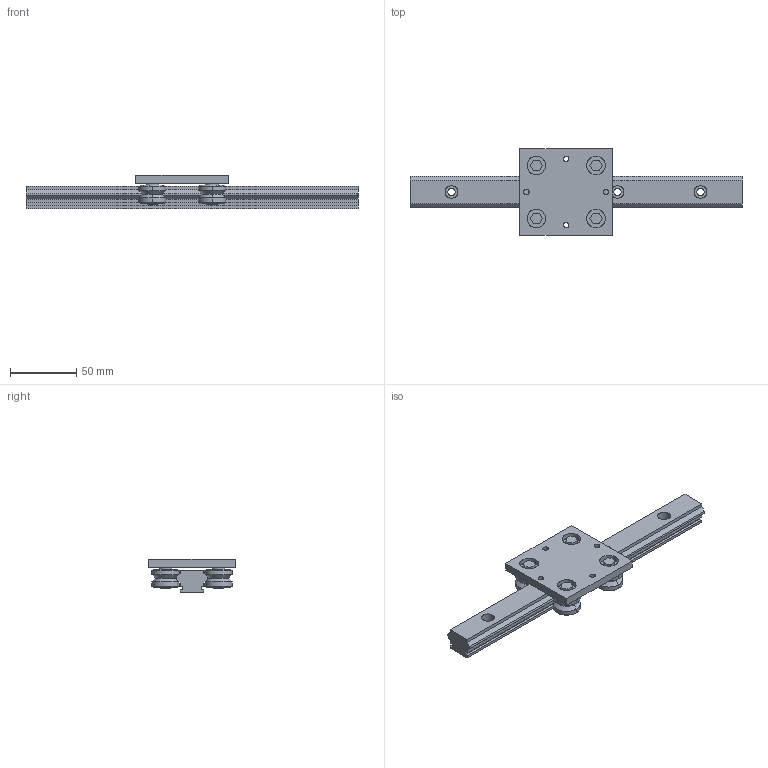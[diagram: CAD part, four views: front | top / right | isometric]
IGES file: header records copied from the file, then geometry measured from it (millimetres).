
Global section: file name: No Iges File Name specified; native system: AutoDesk Inventor R10; preprocessor: AutoDesk Inventor Iges Exporter R10; author: No Author specified; organization: No Organization specified; date: 20101224.114343; units: millimetre
Bounding box: 250 x 65 x 25 mm (x, y, z)
Surface area: 40437.5 mm2 (no closed solid volume)
Topology: 0 solids, 0 shells, 172 faces, 1092 edges, 1092 vertices
Faces by surface type: bspline 172
